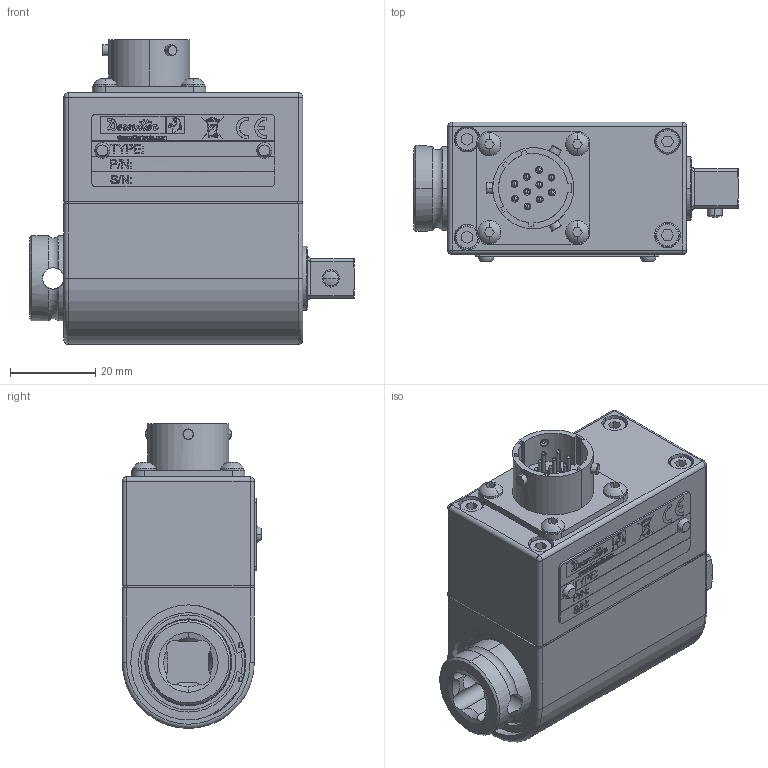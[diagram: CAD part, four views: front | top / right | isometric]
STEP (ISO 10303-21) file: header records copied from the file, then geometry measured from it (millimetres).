
FILE_DESCRIPTION((''),'2;1');
FILE_NAME('2140_SW0001','2014-03-21T',('itdmaca'),(''),'PRO/ENGINEER BY PARAMETRIC TECHNOLOGY CORPORATION, 2012420','PRO/ENGINEER BY PARAMETRIC TECHNOLOGY CORPORATION, 2012420','');
FILE_SCHEMA(('CONFIG_CONTROL_DESIGN','GEOMETRIC_VALIDATION_PROPERTIES_MIM'));
Length unit declared in the file: millimetre
Products named in the file (1): 2140_SW0001
Bounding box: 76.1 x 32.75 x 71.52 mm (x, y, z)
Surface area: 18282.8 mm2 (no closed solid volume)
Topology: 0 solids, 57 shells, 405 faces, 1994 edges, 1670 vertices
Faces by surface type: plane 203, cylinder 112, sphere 38, cone 24, torus 23, bspline 4, extrusion 1
Entity records: 25973 total; most frequent: CARTESIAN_POINT 7963, ORIENTED_EDGE 3022, DIRECTION 3017, EDGE_CURVE 1962, VERTEX_POINT 1669, VECTOR 1185, LINE 1184, AXIS2_PLACEMENT_3D 916
